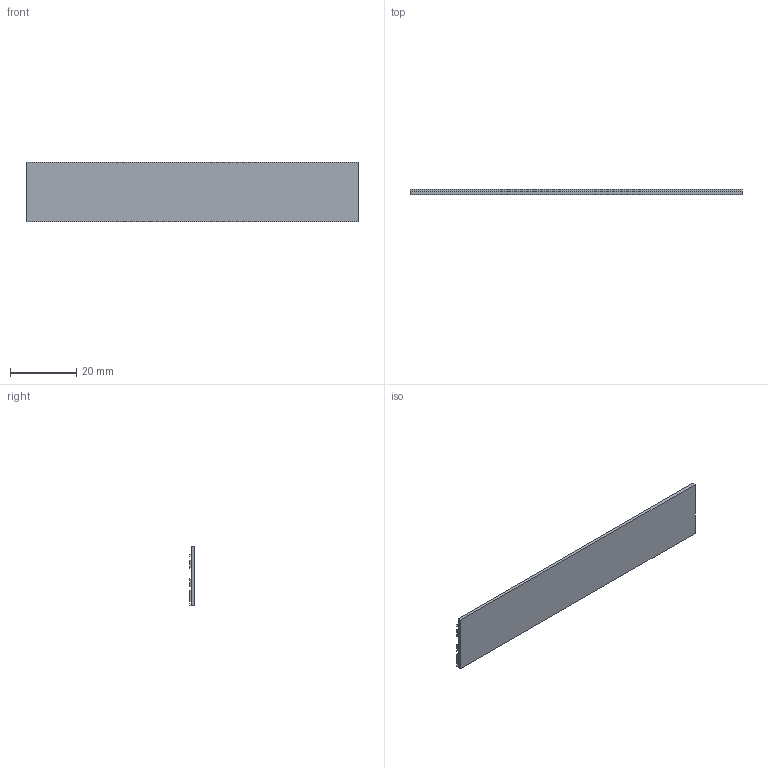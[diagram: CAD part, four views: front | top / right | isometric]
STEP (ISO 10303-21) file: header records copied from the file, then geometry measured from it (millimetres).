
FILE_DESCRIPTION(('Open CASCADE Model'),'2;1');
FILE_NAME('Open CASCADE Shape Model','2026-09-25T10:24:49',('Author'),( 'Open CASCADE'),'Open CASCADE STEP processor 7.9','Open CASCADE 7.9' ,'Unknown');
FILE_SCHEMA(('AUTOMOTIVE_DESIGN { 1 0 10303 214 1 1 1 1 }'));
Length unit declared in the file: millimetre
Products named in the file (7): Chess_mover_concept; 00_Insulating_wall_rail_backing; 01_Continuous_charging_rail_GND; 02_Continuous_charging_rail_5_V; 03_Passive_steel_retention_strip; 04_Insulating_compression_stop_1; 05_Insulating_compression_stop_16
Assembly tree (6 placements, depth 2):
  Chess_mover_concept
    00_Insulating_wall_rail_backing
    01_Continuous_charging_rail_GND
    02_Continuous_charging_rail_5_V
    03_Passive_steel_retention_strip
    04_Insulating_compression_stop_1
    05_Insulating_compression_stop_16
Bounding box: 100 x 1.5 x 18 mm (x, y, z)
Volume: 2264 mm3; surface area: 6205.3 mm2
Topology: 6 solids, 6 shells, 36 faces, 72 edges, 48 vertices
Faces by surface type: plane 36
Entity records: 2012 total; most frequent: CARTESIAN_POINT 307, DIRECTION 302, LINE 216, VECTOR 216, ORIENTED_EDGE 144, PCURVE 144, DEFINITIONAL_REPRESENTATION 144, EDGE_CURVE 72
